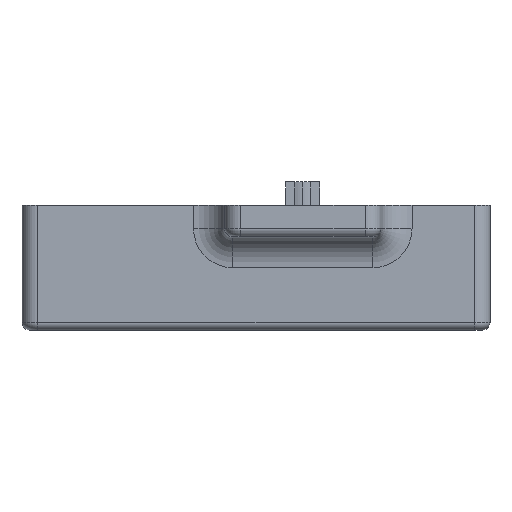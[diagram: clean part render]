
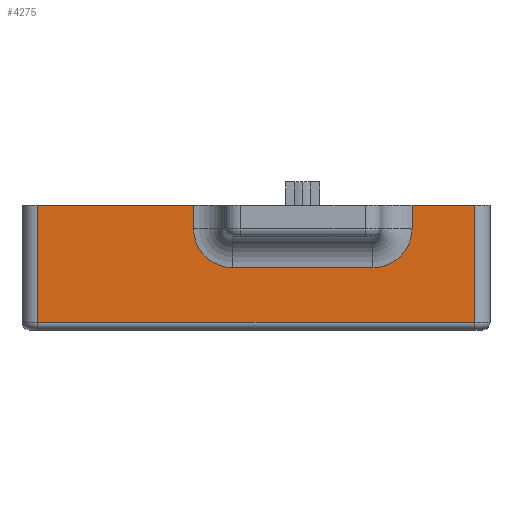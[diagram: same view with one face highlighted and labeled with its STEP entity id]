
A CAD part, left-side view. The second image highlights one B-rep face of the part: STEP entity #4275.
In plain terms, the highlighted planar face has unit normal (-1, 0, 0).
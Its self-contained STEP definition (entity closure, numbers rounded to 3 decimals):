
#53 = CARTESIAN_POINT ( 'NONE',  ( -7.75, -7.5, 0.5 ) ) ;
#60 = CARTESIAN_POINT ( 'NONE',  ( -7.75, -7.5, -2. ) ) ;
#80 = DIRECTION ( 'NONE',  ( 0., 0., -1. ) ) ;
#135 = CARTESIAN_POINT ( 'NONE',  ( -7.75, -5., 0.5 ) ) ;
#160 = EDGE_CURVE ( 'NONE', #1532, #1357, #1761, .T. ) ;
#202 = DIRECTION ( 'NONE',  ( 0., 0., -1. ) ) ;
#484 = LINE ( 'NONE', #2459, #2948 ) ;
#496 = CARTESIAN_POINT ( 'NONE',  ( -7.75, -5., 2. ) ) ;
#540 = CARTESIAN_POINT ( 'NONE',  ( -7.75, -19., 0.5 ) ) ;
#546 = DIRECTION ( 'NONE',  ( 0., 0., -1. ) ) ;
#556 = EDGE_CURVE ( 'NONE', #3974, #3532, #4406, .T. ) ;
#559 = EDGE_CURVE ( 'NONE', #3022, #3444, #3653, .T. ) ;
#702 = EDGE_CURVE ( 'NONE', #2698, #1532, #770, .T. ) ;
#717 = CARTESIAN_POINT ( 'NONE',  ( -7.75, 0., 2. ) ) ;
#770 = CIRCLE ( 'NONE', #1796, 2.5 ) ;
#955 = EDGE_CURVE ( 'NONE', #3444, #2653, #4874, .T. ) ;
#1116 = CARTESIAN_POINT ( 'NONE',  ( -7.75, 0., 2. ) ) ;
#1357 = VERTEX_POINT ( 'NONE', #3738 ) ;
#1366 = DIRECTION ( 'NONE',  ( 0., 1., 0. ) ) ;
#1369 = CARTESIAN_POINT ( 'NONE',  ( -7.75, 5., -6. ) ) ;
#1469 = CARTESIAN_POINT ( 'NONE',  ( -7.75, -19., 2. ) ) ;
#1532 = VERTEX_POINT ( 'NONE', #1545 ) ;
#1545 = CARTESIAN_POINT ( 'NONE',  ( -7.75, -16.5, -2. ) ) ;
#1603 = DIRECTION ( 'NONE',  ( 0., 1., 0. ) ) ;
#1651 = DIRECTION ( 'NONE',  ( 1., 0., 0. ) ) ;
#1727 = ORIENTED_EDGE ( 'NONE', *, *, #3091, .T. ) ;
#1761 = LINE ( 'NONE', #60, #4700 ) ;
#1796 = AXIS2_PLACEMENT_3D ( 'NONE', #2602, #3823, #3936 ) ;
#1825 = DIRECTION ( 'NONE',  ( 1., 0., 0. ) ) ;
#1873 = ORIENTED_EDGE ( 'NONE', *, *, #5047, .T. ) ;
#2015 = AXIS2_PLACEMENT_3D ( 'NONE', #53, #1651, #4112 ) ;
#2021 = VERTEX_POINT ( 'NONE', #2446 ) ;
#2032 = ORIENTED_EDGE ( 'NONE', *, *, #5149, .T. ) ;
#2053 = DIRECTION ( 'NONE',  ( 0., -1., 0. ) ) ;
#2066 = ORIENTED_EDGE ( 'NONE', *, *, #3677, .T. ) ;
#2111 = ORIENTED_EDGE ( 'NONE', *, *, #556, .T. ) ;
#2191 = ORIENTED_EDGE ( 'NONE', *, *, #160, .T. ) ;
#2221 = VERTEX_POINT ( 'NONE', #4580 ) ;
#2249 = CARTESIAN_POINT ( 'NONE',  ( -7.75, 0., -6. ) ) ;
#2401 = VECTOR ( 'NONE', #2851, 1000. ) ;
#2446 = CARTESIAN_POINT ( 'NONE',  ( -7.75, 5., -5.5 ) ) ;
#2459 = CARTESIAN_POINT ( 'NONE',  ( -7.75, -23., -5.5 ) ) ;
#2472 = ORIENTED_EDGE ( 'NONE', *, *, #702, .T. ) ;
#2528 = VECTOR ( 'NONE', #1603, 1000. ) ;
#2529 = CARTESIAN_POINT ( 'NONE',  ( -7.75, -19., 0.5 ) ) ;
#2602 = CARTESIAN_POINT ( 'NONE',  ( -7.75, -16.5, 0.5 ) ) ;
#2653 = VERTEX_POINT ( 'NONE', #1469 ) ;
#2660 = ORIENTED_EDGE ( 'NONE', *, *, #2894, .T. ) ;
#2681 = ORIENTED_EDGE ( 'NONE', *, *, #955, .T. ) ;
#2698 = VERTEX_POINT ( 'NONE', #540 ) ;
#2804 = LINE ( 'NONE', #1116, #2528 ) ;
#2851 = DIRECTION ( 'NONE',  ( 0., 0., 1. ) ) ;
#2869 = AXIS2_PLACEMENT_3D ( 'NONE', #2249, #1825, #202 ) ;
#2894 = EDGE_CURVE ( 'NONE', #2021, #3022, #484, .T. ) ;
#2921 = ORIENTED_EDGE ( 'NONE', *, *, #559, .T. ) ;
#2948 = VECTOR ( 'NONE', #2053, 1000. ) ;
#3022 = VERTEX_POINT ( 'NONE', #3173 ) ;
#3025 = FACE_OUTER_BOUND ( 'NONE', #5112, .T. ) ;
#3091 = EDGE_CURVE ( 'NONE', #3532, #2221, #2804, .T. ) ;
#3173 = CARTESIAN_POINT ( 'NONE',  ( -7.75, -23., -5.5 ) ) ;
#3209 = VECTOR ( 'NONE', #80, 1000. ) ;
#3240 = DIRECTION ( 'NONE',  ( 0., 1., 0. ) ) ;
#3444 = VERTEX_POINT ( 'NONE', #4074 ) ;
#3532 = VERTEX_POINT ( 'NONE', #496 ) ;
#3653 = LINE ( 'NONE', #4854, #2401 ) ;
#3677 = EDGE_CURVE ( 'NONE', #2221, #2021, #5026, .T. ) ;
#3738 = CARTESIAN_POINT ( 'NONE',  ( -7.75, -7.5, -2. ) ) ;
#3823 = DIRECTION ( 'NONE',  ( 1., 0., 0. ) ) ;
#3936 = DIRECTION ( 'NONE',  ( 0., 0., -1. ) ) ;
#3974 = VERTEX_POINT ( 'NONE', #135 ) ;
#4074 = CARTESIAN_POINT ( 'NONE',  ( -7.75, -23., 2. ) ) ;
#4112 = DIRECTION ( 'NONE',  ( 0., 0., -1. ) ) ;
#4211 = LINE ( 'NONE', #2529, #3209 ) ;
#4275 = ADVANCED_FACE ( 'NONE', ( #3025 ), #4741, .F. ) ;
#4406 = LINE ( 'NONE', #4880, #4457 ) ;
#4457 = VECTOR ( 'NONE', #4830, 1000. ) ;
#4504 = VECTOR ( 'NONE', #546, 1000. ) ;
#4580 = CARTESIAN_POINT ( 'NONE',  ( -7.75, 5., 2. ) ) ;
#4700 = VECTOR ( 'NONE', #1366, 1000. ) ;
#4741 = PLANE ( 'NONE',  #2869 ) ;
#4830 = DIRECTION ( 'NONE',  ( 0., 0., 1. ) ) ;
#4835 = CIRCLE ( 'NONE', #2015, 2.5 ) ;
#4854 = CARTESIAN_POINT ( 'NONE',  ( -7.75, -23., -6. ) ) ;
#4874 = LINE ( 'NONE', #717, #4952 ) ;
#4880 = CARTESIAN_POINT ( 'NONE',  ( -7.75, -5., 2. ) ) ;
#4952 = VECTOR ( 'NONE', #3240, 1000. ) ;
#5026 = LINE ( 'NONE', #1369, #4504 ) ;
#5047 = EDGE_CURVE ( 'NONE', #2653, #2698, #4211, .T. ) ;
#5112 = EDGE_LOOP ( 'NONE', ( #2681, #1873, #2472, #2191, #2032, #2111, #1727, #2066, #2660, #2921 ) ) ;
#5149 = EDGE_CURVE ( 'NONE', #1357, #3974, #4835, .T. ) ;
